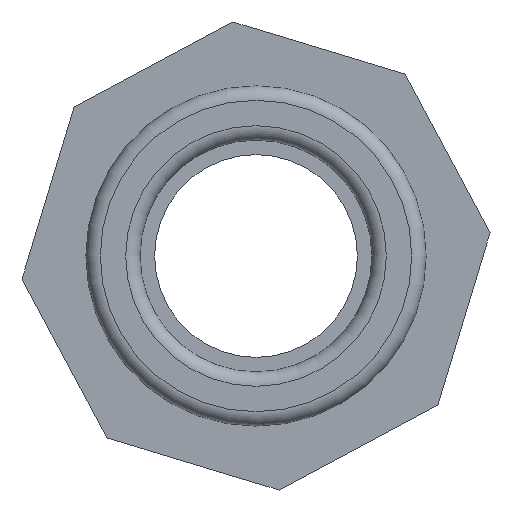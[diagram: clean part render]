
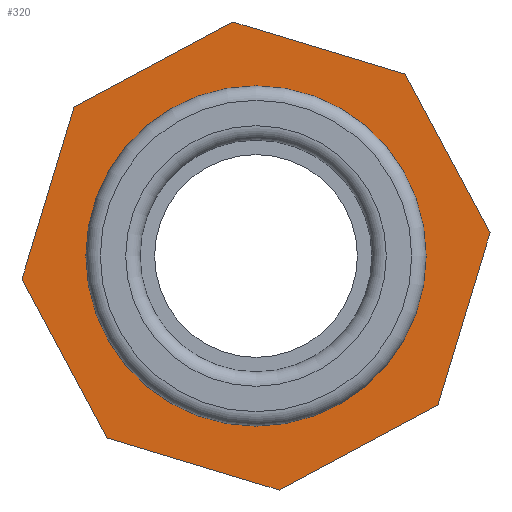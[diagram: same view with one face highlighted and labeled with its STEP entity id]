
A CAD part, left-side view. The second image highlights one B-rep face of the part: STEP entity #320.
In plain terms, the highlighted planar face has unit normal (-1, 0, 0).
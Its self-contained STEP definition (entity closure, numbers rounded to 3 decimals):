
#24=FACE_BOUND('',#77,.T.);
#39=CIRCLE('',#346,11.75);
#53=FACE_OUTER_BOUND('',#76,.T.);
#76=EDGE_LOOP('',(#230,#231,#232,#233,#234,#235,#236,#237));
#77=EDGE_LOOP('',(#238));
#114=LINE('',#486,#138);
#115=LINE('',#488,#139);
#116=LINE('',#490,#140);
#117=LINE('',#492,#141);
#118=LINE('',#494,#142);
#119=LINE('',#496,#143);
#120=LINE('',#498,#144);
#121=LINE('',#499,#145);
#138=VECTOR('',#386,10.);
#139=VECTOR('',#387,10.);
#140=VECTOR('',#388,10.);
#141=VECTOR('',#389,10.);
#142=VECTOR('',#390,10.);
#143=VECTOR('',#391,10.);
#144=VECTOR('',#392,10.);
#145=VECTOR('',#393,10.);
#162=VERTEX_POINT('',#484);
#163=VERTEX_POINT('',#485);
#164=VERTEX_POINT('',#487);
#165=VERTEX_POINT('',#489);
#166=VERTEX_POINT('',#491);
#167=VERTEX_POINT('',#493);
#168=VERTEX_POINT('',#495);
#169=VERTEX_POINT('',#497);
#170=VERTEX_POINT('',#500);
#192=EDGE_CURVE('',#162,#163,#114,.T.);
#193=EDGE_CURVE('',#163,#164,#115,.T.);
#194=EDGE_CURVE('',#164,#165,#116,.T.);
#195=EDGE_CURVE('',#165,#166,#117,.T.);
#196=EDGE_CURVE('',#166,#167,#118,.T.);
#197=EDGE_CURVE('',#167,#168,#119,.T.);
#198=EDGE_CURVE('',#168,#169,#120,.T.);
#199=EDGE_CURVE('',#169,#162,#121,.T.);
#200=EDGE_CURVE('',#170,#170,#39,.T.);
#230=ORIENTED_EDGE('',*,*,#192,.T.);
#231=ORIENTED_EDGE('',*,*,#193,.T.);
#232=ORIENTED_EDGE('',*,*,#194,.T.);
#233=ORIENTED_EDGE('',*,*,#195,.T.);
#234=ORIENTED_EDGE('',*,*,#196,.T.);
#235=ORIENTED_EDGE('',*,*,#197,.T.);
#236=ORIENTED_EDGE('',*,*,#198,.T.);
#237=ORIENTED_EDGE('',*,*,#199,.T.);
#238=ORIENTED_EDGE('',*,*,#200,.F.);
#306=PLANE('',#345);
#320=ADVANCED_FACE('',(#53,#24),#306,.T.);
#345=AXIS2_PLACEMENT_3D('',#483,#384,#385);
#346=AXIS2_PLACEMENT_3D('',#501,#394,#395);
#384=DIRECTION('center_axis',(-1.,0.,0.));
#385=DIRECTION('ref_axis',(0.,0.,1.));
#386=DIRECTION('',(0.,0.957,0.29));
#387=DIRECTION('',(0.,0.882,-0.471));
#388=DIRECTION('',(0.,0.29,-0.957));
#389=DIRECTION('',(0.,-0.471,-0.882));
#390=DIRECTION('',(0.,-0.957,-0.29));
#391=DIRECTION('',(0.,-0.882,0.471));
#392=DIRECTION('',(0.,-0.29,0.957));
#393=DIRECTION('',(0.,0.471,0.882));
#394=DIRECTION('center_axis',(-1.,0.,0.));
#395=DIRECTION('ref_axis',(0.,-1.,0.));
#483=CARTESIAN_POINT('Origin',(13.,0.,0.));
#484=CARTESIAN_POINT('',(13.,-10.302,12.549));
#485=CARTESIAN_POINT('',(13.,1.589,16.158));
#486=CARTESIAN_POINT('',(13.,-10.302,12.549));
#487=CARTESIAN_POINT('',(13.,12.549,10.302));
#488=CARTESIAN_POINT('',(13.,1.589,16.158));
#489=CARTESIAN_POINT('',(13.,16.158,-1.589));
#490=CARTESIAN_POINT('',(13.,12.549,10.302));
#491=CARTESIAN_POINT('',(13.,10.302,-12.549));
#492=CARTESIAN_POINT('',(13.,16.158,-1.589));
#493=CARTESIAN_POINT('',(13.,-1.589,-16.158));
#494=CARTESIAN_POINT('',(13.,10.302,-12.549));
#495=CARTESIAN_POINT('',(13.,-12.549,-10.302));
#496=CARTESIAN_POINT('',(13.,-1.589,-16.158));
#497=CARTESIAN_POINT('',(13.,-16.158,1.589));
#498=CARTESIAN_POINT('',(13.,-12.549,-10.302));
#499=CARTESIAN_POINT('',(13.,-16.158,1.589));
#500=CARTESIAN_POINT('',(13.,11.75,0.));
#501=CARTESIAN_POINT('Origin',(13.,0.,0.));
